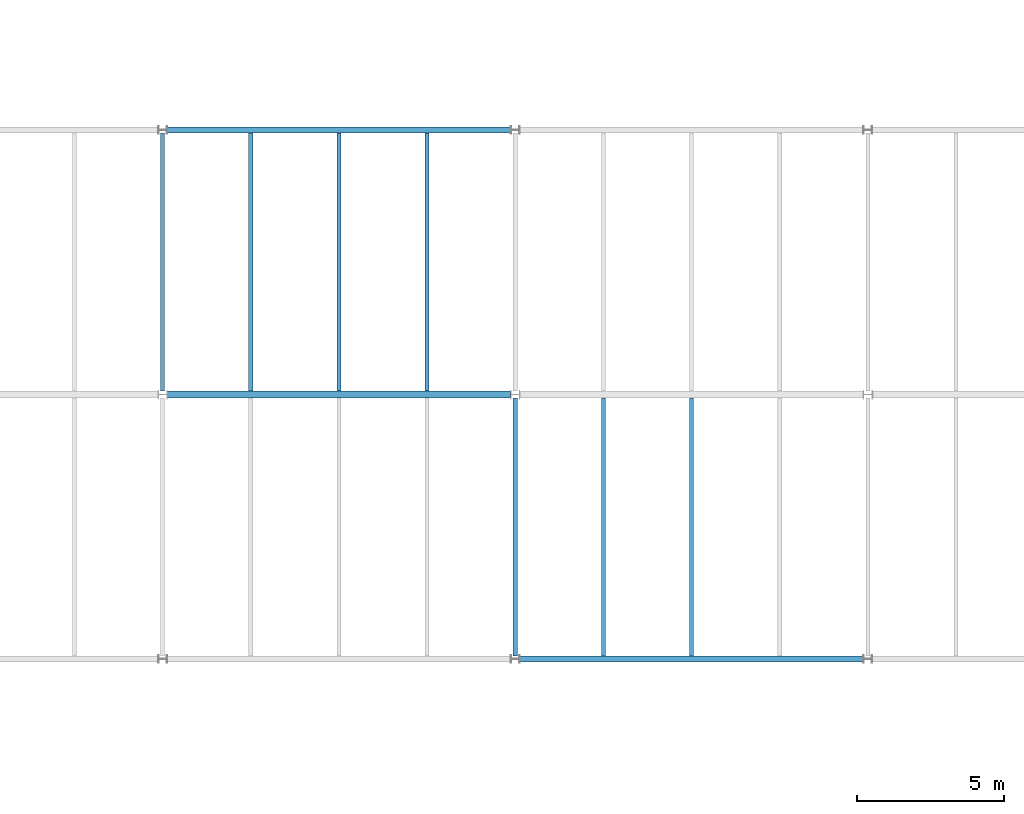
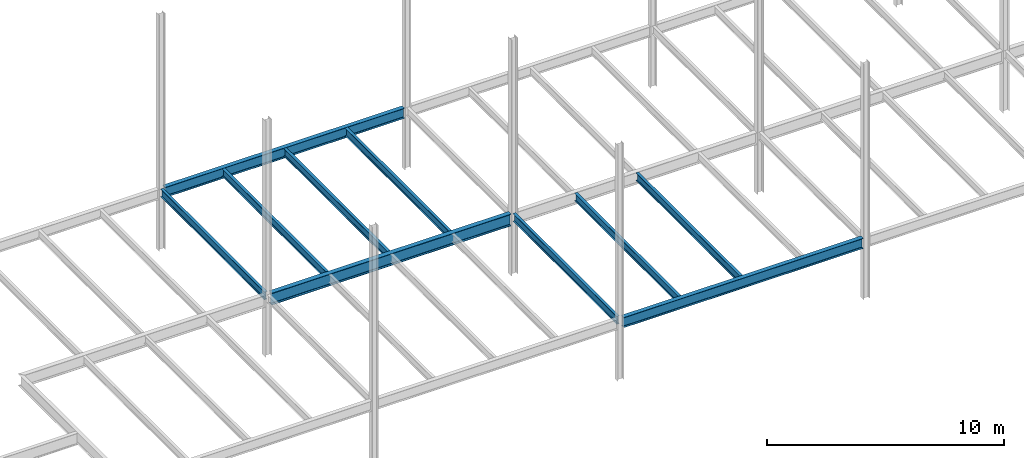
# One storey, part 18 of 26: 10 beams.
"""IFC2X3 building model written with IfcOpenShell, lengths in millimetres."""

from ifc_helpers import new_model, si_unit, origin, place, context, project, spatial, faceted_brep, material, element, save


model = new_model("IFC2X3")

# Units and contexts
context_of_model = context(None, 3, precision=1e-05, world=origin())
ifc_project = project(units=[si_unit("LENGTHUNIT", "METRE", prefix="MILLI")], contexts=[context_of_model])

# Building, storey
building = spatial("IfcBuilding", under=ifc_project, Name="Building", CompositionType="ELEMENT")
storey = spatial("IfcBuildingStorey", under=building, Name="FL4-FRM", CompositionType="ELEMENT")

# Beams
ifc_material_1 = material(Name="A992")
beam_1_placement = place(None, origin())
element("IfcBeam", 1, at=beam_1_placement, inside=storey, material=ifc_material_1, Name="Column383", context=context_of_model, shape_type="Brep", body=[
    faceted_brep([(24157.0, 17885.5, 12761.0), (24157.0, 18114.5, 12761.0), (35843.0, 18114.5, 12761.0), (35843.0, 17885.5, 12761.0), (24157.0, 18114.5, 12780.6), (35843.0, 18114.5, 12780.6), (24157.0, 18018.6, 12780.6), (35843.0, 18018.6, 12780.6), (24157.0, 18015.4, 12781.0), (35843.0, 18015.4, 12781.0), (24157.0, 18012.3, 12782.3), (35843.0, 18012.3, 12782.3), (24157.0, 18009.7, 12784.3), (35843.0, 18009.7, 12784.3), (24157.0, 18007.7, 12787.0), (35843.0, 18007.7, 12787.0), (24157.0, 18006.4, 12790.0), (35843.0, 18006.4, 12790.0), (24157.0, 18005.9, 12793.3), (35843.0, 18005.9, 12793.3), (24157.0, 18005.9, 13340.7), (35843.0, 18005.9, 13340.7), (24157.0, 18006.4, 13344.0), (35843.0, 18006.4, 13344.0), (24157.0, 18007.7, 13347.0), (35843.0, 18007.7, 13347.0), (24157.0, 18009.7, 13349.7), (35843.0, 18009.7, 13349.7), (24157.0, 18012.3, 13351.7), (35843.0, 18012.3, 13351.7), (24157.0, 18015.4, 13353.0), (35843.0, 18015.4, 13353.0), (24157.0, 18018.6, 13353.4), (35843.0, 18018.6, 13353.4), (24157.0, 18114.5, 13353.4), (35843.0, 18114.5, 13353.4), (24157.0, 18114.5, 13373.0), (35843.0, 18114.5, 13373.0), (24157.0, 17885.5, 13373.0), (35843.0, 17885.5, 13373.0), (24157.0, 17885.5, 13353.4), (35843.0, 17885.5, 13353.4), (24157.0, 17981.4, 13353.4), (35843.0, 17981.4, 13353.4), (24157.0, 17984.6, 13353.0), (35843.0, 17984.6, 13353.0), (24157.0, 17987.7, 13351.7), (35843.0, 17987.7, 13351.7), (24157.0, 17990.3, 13349.7), (35843.0, 17990.3, 13349.7), (24157.0, 17992.3, 13347.0), (35843.0, 17992.3, 13347.0), (24157.0, 17993.6, 13344.0), (35843.0, 17993.6, 13344.0), (24157.0, 17994.1, 13340.7), (35843.0, 17994.1, 13340.7), (24157.0, 17994.1, 12793.3), (35843.0, 17994.1, 12793.3), (24157.0, 17993.6, 12790.0), (35843.0, 17993.6, 12790.0), (24157.0, 17992.3, 12787.0), (35843.0, 17992.3, 12787.0), (24157.0, 17990.3, 12784.3), (35843.0, 17990.3, 12784.3), (24157.0, 17987.7, 12782.3), (35843.0, 17987.7, 12782.3), (24157.0, 17984.6, 12781.0), (35843.0, 17984.6, 12781.0), (24157.0, 17981.4, 12780.6), (35843.0, 17981.4, 12780.6), (24157.0, 17885.5, 12780.6), (35843.0, 17885.5, 12780.6)], [[[0, 1, 2, 3]], [[1, 4, 5, 2]], [[4, 6, 7, 5]], [[6, 8, 9, 7]], [[8, 10, 11, 9]], [[10, 12, 13, 11]], [[12, 14, 15, 13]], [[14, 16, 17, 15]], [[16, 18, 19, 17]], [[18, 20, 21, 19]], [[20, 22, 23, 21]], [[22, 24, 25, 23]], [[24, 26, 27, 25]], [[26, 28, 29, 27]], [[28, 30, 31, 29]], [[30, 32, 33, 31]], [[32, 34, 35, 33]], [[34, 36, 37, 35]], [[36, 38, 39, 37]], [[38, 40, 41, 39]], [[40, 42, 43, 41]], [[42, 44, 45, 43]], [[44, 46, 47, 45]], [[46, 48, 49, 47]], [[48, 50, 51, 49]], [[50, 52, 53, 51]], [[52, 54, 55, 53]], [[54, 56, 57, 55]], [[56, 58, 59, 57]], [[58, 60, 61, 59]], [[60, 62, 63, 61]], [[62, 64, 65, 63]], [[64, 66, 67, 65]], [[66, 68, 69, 67]], [[68, 70, 71, 69]], [[70, 0, 3, 71]], [[0, 70, 68, 66, 64, 62, 60, 58, 56, 54, 52, 50, 48, 46, 44, 42, 40, 38, 36, 34, 32, 30, 28, 26, 24, 22, 20, 18, 16, 14, 12, 10, 8, 6, 4, 1]], [[3, 2, 5, 7, 9, 11, 13, 15, 17, 19, 21, 23, 25, 27, 29, 31, 33, 35, 37, 39, 41, 43, 45, 47, 49, 51, 53, 55, 57, 59, 61, 63, 65, 67, 69, 71]]]),
])
ifc_material_2 = material(Name="A992")
beam_2_placement = place(None, origin())
element("IfcBeam", 2, at=beam_2_placement, inside=storey, material=ifc_material_2, Name="B198", context=context_of_model, shape_type="Brep", body=[
    faceted_brep([(26930.0, 26895.5, 12974.0), (27070.0, 26895.5, 12974.0), (27070.0, 18114.5, 12974.0), (26930.0, 18114.5, 12974.0), (27070.0, 26895.5, 12982.8), (27070.0, 18114.5, 12982.8), (27013.4, 26895.5, 12982.8), (27013.4, 18114.5, 12982.8), (27010.8, 26895.5, 12983.1), (27010.8, 18114.5, 12983.1), (27008.3, 26895.5, 12984.2), (27008.3, 18114.5, 12984.2), (27006.2, 26895.5, 12985.8), (27006.2, 18114.5, 12985.8), (27004.6, 26895.5, 12987.9), (27004.6, 18114.5, 12987.9), (27003.5, 26895.5, 12990.4), (27003.5, 18114.5, 12990.4), (27003.2, 26895.5, 12993.0), (27003.2, 18114.5, 12993.0), (27003.2, 26895.5, 13354.0), (27003.2, 18114.5, 13354.0), (27003.5, 26895.5, 13356.6), (27003.5, 18114.5, 13356.6), (27004.6, 26895.5, 13359.1), (27004.6, 18114.5, 13359.1), (27006.2, 26895.5, 13361.2), (27006.2, 18114.5, 13361.2), (27008.3, 26895.5, 13362.8), (27008.3, 18114.5, 13362.8), (27010.8, 26895.5, 13363.9), (27010.8, 18114.5, 13363.9), (27013.4, 26895.5, 13364.2), (27013.4, 18114.5, 13364.2), (27070.0, 26895.5, 13364.2), (27070.0, 18114.5, 13364.2), (27070.0, 26895.5, 13373.0), (27070.0, 18114.5, 13373.0), (26930.0, 26895.5, 13373.0), (26930.0, 18114.5, 13373.0), (26930.0, 26895.5, 13364.2), (26930.0, 18114.5, 13364.2), (26986.6, 26895.5, 13364.2), (26986.6, 18114.5, 13364.2), (26989.2, 26895.5, 13363.9), (26989.2, 18114.5, 13363.9), (26991.7, 26895.5, 13362.8), (26991.7, 18114.5, 13362.8), (26993.8, 26895.5, 13361.2), (26993.8, 18114.5, 13361.2), (26995.4, 26895.5, 13359.1), (26995.4, 18114.5, 13359.1), (26996.5, 26895.5, 13356.6), (26996.5, 18114.5, 13356.6), (26996.8, 26895.5, 13354.0), (26996.8, 18114.5, 13354.0), (26996.8, 26895.5, 12993.0), (26996.8, 18114.5, 12993.0), (26996.5, 26895.5, 12990.4), (26996.5, 18114.5, 12990.4), (26995.4, 26895.5, 12987.9), (26995.4, 18114.5, 12987.9), (26993.8, 26895.5, 12985.8), (26993.8, 18114.5, 12985.8), (26991.7, 26895.5, 12984.2), (26991.7, 18114.5, 12984.2), (26989.2, 26895.5, 12983.1), (26989.2, 18114.5, 12983.1), (26986.6, 26895.5, 12982.8), (26986.6, 18114.5, 12982.8), (26930.0, 26895.5, 12982.8), (26930.0, 18114.5, 12982.8)], [[[0, 1, 2, 3]], [[1, 4, 5, 2]], [[4, 6, 7, 5]], [[6, 8, 9, 7]], [[8, 10, 11, 9]], [[10, 12, 13, 11]], [[12, 14, 15, 13]], [[14, 16, 17, 15]], [[16, 18, 19, 17]], [[18, 20, 21, 19]], [[20, 22, 23, 21]], [[22, 24, 25, 23]], [[24, 26, 27, 25]], [[26, 28, 29, 27]], [[28, 30, 31, 29]], [[30, 32, 33, 31]], [[32, 34, 35, 33]], [[34, 36, 37, 35]], [[36, 38, 39, 37]], [[38, 40, 41, 39]], [[40, 42, 43, 41]], [[42, 44, 45, 43]], [[44, 46, 47, 45]], [[46, 48, 49, 47]], [[48, 50, 51, 49]], [[50, 52, 53, 51]], [[52, 54, 55, 53]], [[54, 56, 57, 55]], [[56, 58, 59, 57]], [[58, 60, 61, 59]], [[60, 62, 63, 61]], [[62, 64, 65, 63]], [[64, 66, 67, 65]], [[66, 68, 69, 67]], [[68, 70, 71, 69]], [[70, 0, 3, 71]], [[0, 70, 68, 66, 64, 62, 60, 58, 56, 54, 52, 50, 48, 46, 44, 42, 40, 38, 36, 34, 32, 30, 28, 26, 24, 22, 20, 18, 16, 14, 12, 10, 8, 6, 4, 1]], [[3, 2, 5, 7, 9, 11, 13, 15, 17, 19, 21, 23, 25, 27, 29, 31, 33, 35, 37, 39, 41, 43, 45, 47, 49, 51, 53, 55, 57, 59, 61, 63, 65, 67, 69, 71]]]),
])
ifc_material_3 = material(Name="A992")
beam_3_placement = place(None, origin())
element("IfcBeam", 3, at=beam_3_placement, inside=storey, material=ifc_material_3, Name="B201", context=context_of_model, shape_type="Brep", body=[
    faceted_brep([(29930.0, 26895.5, 12974.0), (30070.0, 26895.5, 12974.0), (30070.0, 18114.5, 12974.0), (29930.0, 18114.5, 12974.0), (30070.0, 26895.5, 12982.8), (30070.0, 18114.5, 12982.8), (30013.4, 26895.5, 12982.8), (30013.4, 18114.5, 12982.8), (30010.8, 26895.5, 12983.1), (30010.8, 18114.5, 12983.1), (30008.3, 26895.5, 12984.2), (30008.3, 18114.5, 12984.2), (30006.2, 26895.5, 12985.8), (30006.2, 18114.5, 12985.8), (30004.6, 26895.5, 12987.9), (30004.6, 18114.5, 12987.9), (30003.5, 26895.5, 12990.4), (30003.5, 18114.5, 12990.4), (30003.2, 26895.5, 12993.0), (30003.2, 18114.5, 12993.0), (30003.2, 26895.5, 13354.0), (30003.2, 18114.5, 13354.0), (30003.5, 26895.5, 13356.6), (30003.5, 18114.5, 13356.6), (30004.6, 26895.5, 13359.1), (30004.6, 18114.5, 13359.1), (30006.2, 26895.5, 13361.2), (30006.2, 18114.5, 13361.2), (30008.3, 26895.5, 13362.8), (30008.3, 18114.5, 13362.8), (30010.8, 26895.5, 13363.9), (30010.8, 18114.5, 13363.9), (30013.4, 26895.5, 13364.2), (30013.4, 18114.5, 13364.2), (30070.0, 26895.5, 13364.2), (30070.0, 18114.5, 13364.2), (30070.0, 26895.5, 13373.0), (30070.0, 18114.5, 13373.0), (29930.0, 26895.5, 13373.0), (29930.0, 18114.5, 13373.0), (29930.0, 26895.5, 13364.2), (29930.0, 18114.5, 13364.2), (29986.6, 26895.5, 13364.2), (29986.6, 18114.5, 13364.2), (29989.2, 26895.5, 13363.9), (29989.2, 18114.5, 13363.9), (29991.7, 26895.5, 13362.8), (29991.7, 18114.5, 13362.8), (29993.8, 26895.5, 13361.2), (29993.8, 18114.5, 13361.2), (29995.4, 26895.5, 13359.1), (29995.4, 18114.5, 13359.1), (29996.5, 26895.5, 13356.6), (29996.5, 18114.5, 13356.6), (29996.8, 26895.5, 13354.0), (29996.8, 18114.5, 13354.0), (29996.8, 26895.5, 12993.0), (29996.8, 18114.5, 12993.0), (29996.5, 26895.5, 12990.4), (29996.5, 18114.5, 12990.4), (29995.4, 26895.5, 12987.9), (29995.4, 18114.5, 12987.9), (29993.8, 26895.5, 12985.8), (29993.8, 18114.5, 12985.8), (29991.7, 26895.5, 12984.2), (29991.7, 18114.5, 12984.2), (29989.2, 26895.5, 12983.1), (29989.2, 18114.5, 12983.1), (29986.6, 26895.5, 12982.8), (29986.6, 18114.5, 12982.8), (29930.0, 26895.5, 12982.8), (29930.0, 18114.5, 12982.8)], [[[0, 1, 2, 3]], [[1, 4, 5, 2]], [[4, 6, 7, 5]], [[6, 8, 9, 7]], [[8, 10, 11, 9]], [[10, 12, 13, 11]], [[12, 14, 15, 13]], [[14, 16, 17, 15]], [[16, 18, 19, 17]], [[18, 20, 21, 19]], [[20, 22, 23, 21]], [[22, 24, 25, 23]], [[24, 26, 27, 25]], [[26, 28, 29, 27]], [[28, 30, 31, 29]], [[30, 32, 33, 31]], [[32, 34, 35, 33]], [[34, 36, 37, 35]], [[36, 38, 39, 37]], [[38, 40, 41, 39]], [[40, 42, 43, 41]], [[42, 44, 45, 43]], [[44, 46, 47, 45]], [[46, 48, 49, 47]], [[48, 50, 51, 49]], [[50, 52, 53, 51]], [[52, 54, 55, 53]], [[54, 56, 57, 55]], [[56, 58, 59, 57]], [[58, 60, 61, 59]], [[60, 62, 63, 61]], [[62, 64, 65, 63]], [[64, 66, 67, 65]], [[66, 68, 69, 67]], [[68, 70, 71, 69]], [[70, 0, 3, 71]], [[0, 70, 68, 66, 64, 62, 60, 58, 56, 54, 52, 50, 48, 46, 44, 42, 40, 38, 36, 34, 32, 30, 28, 26, 24, 22, 20, 18, 16, 14, 12, 10, 8, 6, 4, 1]], [[3, 2, 5, 7, 9, 11, 13, 15, 17, 19, 21, 23, 25, 27, 29, 31, 33, 35, 37, 39, 41, 43, 45, 47, 49, 51, 53, 55, 57, 59, 61, 63, 65, 67, 69, 71]]]),
])
ifc_material_4 = material(Name="A992")
beam_4_placement = place(None, origin())
element("IfcBeam", 4, at=beam_4_placement, inside=storey, material=ifc_material_4, Name="B202", context=context_of_model, shape_type="Brep", body=[
    faceted_brep([(32930.0, 26895.5, 12974.0), (33070.0, 26895.5, 12974.0), (33070.0, 18114.5, 12974.0), (32930.0, 18114.5, 12974.0), (33070.0, 26895.5, 12982.8), (33070.0, 18114.5, 12982.8), (33013.4, 26895.5, 12982.8), (33013.4, 18114.5, 12982.8), (33010.8, 26895.5, 12983.1), (33010.8, 18114.5, 12983.1), (33008.3, 26895.5, 12984.2), (33008.3, 18114.5, 12984.2), (33006.2, 26895.5, 12985.8), (33006.2, 18114.5, 12985.8), (33004.6, 26895.5, 12987.9), (33004.6, 18114.5, 12987.9), (33003.5, 26895.5, 12990.4), (33003.5, 18114.5, 12990.4), (33003.2, 26895.5, 12993.0), (33003.2, 18114.5, 12993.0), (33003.2, 26895.5, 13354.0), (33003.2, 18114.5, 13354.0), (33003.5, 26895.5, 13356.6), (33003.5, 18114.5, 13356.6), (33004.6, 26895.5, 13359.1), (33004.6, 18114.5, 13359.1), (33006.2, 26895.5, 13361.2), (33006.2, 18114.5, 13361.2), (33008.3, 26895.5, 13362.8), (33008.3, 18114.5, 13362.8), (33010.8, 26895.5, 13363.9), (33010.8, 18114.5, 13363.9), (33013.4, 26895.5, 13364.2), (33013.4, 18114.5, 13364.2), (33070.0, 26895.5, 13364.2), (33070.0, 18114.5, 13364.2), (33070.0, 26895.5, 13373.0), (33070.0, 18114.5, 13373.0), (32930.0, 26895.5, 13373.0), (32930.0, 18114.5, 13373.0), (32930.0, 26895.5, 13364.2), (32930.0, 18114.5, 13364.2), (32986.6, 26895.5, 13364.2), (32986.6, 18114.5, 13364.2), (32989.2, 26895.5, 13363.9), (32989.2, 18114.5, 13363.9), (32991.7, 26895.5, 13362.8), (32991.7, 18114.5, 13362.8), (32993.8, 26895.5, 13361.2), (32993.8, 18114.5, 13361.2), (32995.4, 26895.5, 13359.1), (32995.4, 18114.5, 13359.1), (32996.5, 26895.5, 13356.6), (32996.5, 18114.5, 13356.6), (32996.8, 26895.5, 13354.0), (32996.8, 18114.5, 13354.0), (32996.8, 26895.5, 12993.0), (32996.8, 18114.5, 12993.0), (32996.5, 26895.5, 12990.4), (32996.5, 18114.5, 12990.4), (32995.4, 26895.5, 12987.9), (32995.4, 18114.5, 12987.9), (32993.8, 26895.5, 12985.8), (32993.8, 18114.5, 12985.8), (32991.7, 26895.5, 12984.2), (32991.7, 18114.5, 12984.2), (32989.2, 26895.5, 12983.1), (32989.2, 18114.5, 12983.1), (32986.6, 26895.5, 12982.8), (32986.6, 18114.5, 12982.8), (32930.0, 26895.5, 12982.8), (32930.0, 18114.5, 12982.8)], [[[0, 1, 2, 3]], [[1, 4, 5, 2]], [[4, 6, 7, 5]], [[6, 8, 9, 7]], [[8, 10, 11, 9]], [[10, 12, 13, 11]], [[12, 14, 15, 13]], [[14, 16, 17, 15]], [[16, 18, 19, 17]], [[18, 20, 21, 19]], [[20, 22, 23, 21]], [[22, 24, 25, 23]], [[24, 26, 27, 25]], [[26, 28, 29, 27]], [[28, 30, 31, 29]], [[30, 32, 33, 31]], [[32, 34, 35, 33]], [[34, 36, 37, 35]], [[36, 38, 39, 37]], [[38, 40, 41, 39]], [[40, 42, 43, 41]], [[42, 44, 45, 43]], [[44, 46, 47, 45]], [[46, 48, 49, 47]], [[48, 50, 51, 49]], [[50, 52, 53, 51]], [[52, 54, 55, 53]], [[54, 56, 57, 55]], [[56, 58, 59, 57]], [[58, 60, 61, 59]], [[60, 62, 63, 61]], [[62, 64, 65, 63]], [[64, 66, 67, 65]], [[66, 68, 69, 67]], [[68, 70, 71, 69]], [[70, 0, 3, 71]], [[0, 70, 68, 66, 64, 62, 60, 58, 56, 54, 52, 50, 48, 46, 44, 42, 40, 38, 36, 34, 32, 30, 28, 26, 24, 22, 20, 18, 16, 14, 12, 10, 8, 6, 4, 1]], [[3, 2, 5, 7, 9, 11, 13, 15, 17, 19, 21, 23, 25, 27, 29, 31, 33, 35, 37, 39, 41, 43, 45, 47, 49, 51, 53, 55, 57, 59, 61, 63, 65, 67, 69, 71]]]),
])
ifc_material_5 = material(Name="A992")
beam_5_placement = place(None, origin())
element("IfcBeam", 5, at=beam_5_placement, inside=storey, material=ifc_material_5, Name="Column384", context=context_of_model, shape_type="Brep", body=[
    faceted_brep([(24153.0, 26895.5, 12845.0), (24153.0, 27104.5, 12845.0), (35847.0, 27104.5, 12845.0), (35847.0, 26895.5, 12845.0), (24153.0, 27104.5, 12858.3), (35847.0, 27104.5, 12858.3), (24153.0, 27017.4, 12858.3), (35847.0, 27017.4, 12858.3), (24153.0, 27014.2, 12858.7), (35847.0, 27014.2, 12858.7), (24153.0, 27011.1, 12860.0), (35847.0, 27011.1, 12860.0), (24153.0, 27008.5, 12862.0), (35847.0, 27008.5, 12862.0), (24153.0, 27006.5, 12864.7), (35847.0, 27006.5, 12864.7), (24153.0, 27005.2, 12867.7), (35847.0, 27005.2, 12867.7), (24153.0, 27004.8, 12871.0), (35847.0, 27004.8, 12871.0), (24153.0, 27004.8, 13347.0), (35847.0, 27004.8, 13347.0), (24153.0, 27005.2, 13350.3), (35847.0, 27005.2, 13350.3), (24153.0, 27006.5, 13353.3), (35847.0, 27006.5, 13353.3), (24153.0, 27008.5, 13356.0), (35847.0, 27008.5, 13356.0), (24153.0, 27011.1, 13358.0), (35847.0, 27011.1, 13358.0), (24153.0, 27014.2, 13359.3), (35847.0, 27014.2, 13359.3), (24153.0, 27017.4, 13359.7), (35847.0, 27017.4, 13359.7), (24153.0, 27104.5, 13359.7), (35847.0, 27104.5, 13359.7), (24153.0, 27104.5, 13373.0), (35847.0, 27104.5, 13373.0), (24153.0, 26895.5, 13373.0), (35847.0, 26895.5, 13373.0), (24153.0, 26895.5, 13359.7), (35847.0, 26895.5, 13359.7), (24153.0, 26982.6, 13359.7), (35847.0, 26982.6, 13359.7), (24153.0, 26985.8, 13359.3), (35847.0, 26985.8, 13359.3), (24153.0, 26988.9, 13358.0), (35847.0, 26988.9, 13358.0), (24153.0, 26991.5, 13356.0), (35847.0, 26991.5, 13356.0), (24153.0, 26993.5, 13353.3), (35847.0, 26993.5, 13353.3), (24153.0, 26994.8, 13350.3), (35847.0, 26994.8, 13350.3), (24153.0, 26995.3, 13347.0), (35847.0, 26995.3, 13347.0), (24153.0, 26995.2, 12871.0), (35847.0, 26995.3, 12871.0), (24153.0, 26994.8, 12867.7), (35847.0, 26994.8, 12867.7), (24153.0, 26993.5, 12864.7), (35847.0, 26993.5, 12864.7), (24153.0, 26991.5, 12862.0), (35847.0, 26991.5, 12862.0), (24153.0, 26988.9, 12860.0), (35847.0, 26988.9, 12860.0), (24153.0, 26985.8, 12858.7), (35847.0, 26985.8, 12858.7), (24153.0, 26982.6, 12858.3), (35847.0, 26982.6, 12858.3), (24153.0, 26895.5, 12858.3), (35847.0, 26895.5, 12858.3)], [[[0, 1, 2, 3]], [[1, 4, 5, 2]], [[4, 6, 7, 5]], [[6, 8, 9, 7]], [[8, 10, 11, 9]], [[10, 12, 13, 11]], [[12, 14, 15, 13]], [[14, 16, 17, 15]], [[16, 18, 19, 17]], [[18, 20, 21, 19]], [[20, 22, 23, 21]], [[22, 24, 25, 23]], [[24, 26, 27, 25]], [[26, 28, 29, 27]], [[28, 30, 31, 29]], [[30, 32, 33, 31]], [[32, 34, 35, 33]], [[34, 36, 37, 35]], [[36, 38, 39, 37]], [[38, 40, 41, 39]], [[40, 42, 43, 41]], [[42, 44, 45, 43]], [[44, 46, 47, 45]], [[46, 48, 49, 47]], [[48, 50, 51, 49]], [[50, 52, 53, 51]], [[52, 54, 55, 53]], [[54, 56, 57, 55]], [[56, 58, 59, 57]], [[58, 60, 61, 59]], [[60, 62, 63, 61]], [[62, 64, 65, 63]], [[64, 66, 67, 65]], [[66, 68, 69, 67]], [[68, 70, 71, 69]], [[70, 0, 3, 71]], [[0, 70, 68, 66, 64, 62, 60, 58, 56, 54, 52, 50, 48, 46, 44, 42, 40, 38, 36, 34, 32, 30, 28, 26, 24, 22, 20, 18, 16, 14, 12, 10, 8, 6, 4, 1]], [[3, 2, 5, 7, 9, 11, 13, 15, 17, 19, 21, 23, 25, 27, 29, 31, 33, 35, 37, 39, 41, 43, 45, 47, 49, 51, 53, 55, 57, 59, 61, 63, 65, 67, 69, 71]]]),
])
ifc_material_6 = material(Name="A992")
beam_6_placement = place(None, origin())
element("IfcBeam", 6, at=beam_6_placement, inside=storey, material=ifc_material_6, Name="B205", context=context_of_model, shape_type="Brep", body=[
    faceted_brep([(24070.0, 18114.5, 12974.0), (23930.0, 18114.5, 12974.0), (23930.0, 26895.5, 12974.0), (24070.0, 26895.5, 12974.0), (23930.0, 18114.5, 12982.8), (23930.0, 26895.5, 12982.8), (23986.6, 18114.5, 12982.8), (23986.6, 26895.5, 12982.8), (23989.2, 18114.5, 12983.1), (23989.2, 26895.5, 12983.1), (23991.7, 18114.5, 12984.2), (23991.7, 26895.5, 12984.2), (23993.8, 18114.5, 12985.8), (23993.8, 26895.5, 12985.8), (23995.4, 18114.5, 12987.9), (23995.4, 26895.5, 12987.9), (23996.5, 18114.5, 12990.4), (23996.5, 26895.5, 12990.4), (23996.8, 18114.5, 12993.0), (23996.8, 26895.5, 12993.0), (23996.8, 18114.5, 13354.0), (23996.8, 26895.5, 13354.0), (23996.5, 18114.5, 13356.6), (23996.5, 26895.5, 13356.6), (23995.4, 18114.5, 13359.1), (23995.4, 26895.5, 13359.1), (23993.8, 18114.5, 13361.2), (23993.8, 26895.5, 13361.2), (23991.7, 18114.5, 13362.8), (23991.7, 26895.5, 13362.8), (23989.2, 18114.5, 13363.9), (23989.2, 26895.5, 13363.9), (23986.6, 18114.5, 13364.2), (23986.6, 26895.5, 13364.2), (23930.0, 18114.5, 13364.2), (23930.0, 26895.5, 13364.2), (23930.0, 18114.5, 13373.0), (23930.0, 26895.5, 13373.0), (24070.0, 18114.5, 13373.0), (24070.0, 26895.5, 13373.0), (24070.0, 18114.5, 13364.2), (24070.0, 26895.5, 13364.2), (24013.4, 18114.5, 13364.2), (24013.4, 26895.5, 13364.2), (24010.8, 18114.5, 13363.9), (24010.8, 26895.5, 13363.9), (24008.3, 18114.5, 13362.8), (24008.3, 26895.5, 13362.8), (24006.2, 18114.5, 13361.2), (24006.2, 26895.5, 13361.2), (24004.6, 18114.5, 13359.1), (24004.6, 26895.5, 13359.1), (24003.5, 18114.5, 13356.6), (24003.5, 26895.5, 13356.6), (24003.2, 18114.5, 13354.0), (24003.2, 26895.5, 13354.0), (24003.2, 18114.5, 12993.0), (24003.2, 26895.5, 12993.0), (24003.5, 18114.5, 12990.4), (24003.5, 26895.5, 12990.4), (24004.6, 18114.5, 12987.9), (24004.6, 26895.5, 12987.9), (24006.2, 18114.5, 12985.8), (24006.2, 26895.5, 12985.8), (24008.3, 18114.5, 12984.2), (24008.3, 26895.5, 12984.2), (24010.8, 18114.5, 12983.1), (24010.8, 26895.5, 12983.1), (24013.4, 18114.5, 12982.8), (24013.4, 26895.5, 12982.8), (24070.0, 18114.5, 12982.8), (24070.0, 26895.5, 12982.8)], [[[0, 1, 2, 3]], [[1, 4, 5, 2]], [[4, 6, 7, 5]], [[6, 8, 9, 7]], [[8, 10, 11, 9]], [[10, 12, 13, 11]], [[12, 14, 15, 13]], [[14, 16, 17, 15]], [[16, 18, 19, 17]], [[18, 20, 21, 19]], [[20, 22, 23, 21]], [[22, 24, 25, 23]], [[24, 26, 27, 25]], [[26, 28, 29, 27]], [[28, 30, 31, 29]], [[30, 32, 33, 31]], [[32, 34, 35, 33]], [[34, 36, 37, 35]], [[36, 38, 39, 37]], [[38, 40, 41, 39]], [[40, 42, 43, 41]], [[42, 44, 45, 43]], [[44, 46, 47, 45]], [[46, 48, 49, 47]], [[48, 50, 51, 49]], [[50, 52, 53, 51]], [[52, 54, 55, 53]], [[54, 56, 57, 55]], [[56, 58, 59, 57]], [[58, 60, 61, 59]], [[60, 62, 63, 61]], [[62, 64, 65, 63]], [[64, 66, 67, 65]], [[66, 68, 69, 67]], [[68, 70, 71, 69]], [[70, 0, 3, 71]], [[0, 70, 68, 66, 64, 62, 60, 58, 56, 54, 52, 50, 48, 46, 44, 42, 40, 38, 36, 34, 32, 30, 28, 26, 24, 22, 20, 18, 16, 14, 12, 10, 8, 6, 4, 1]], [[3, 2, 5, 7, 9, 11, 13, 15, 17, 19, 21, 23, 25, 27, 29, 31, 33, 35, 37, 39, 41, 43, 45, 47, 49, 51, 53, 55, 57, 59, 61, 63, 65, 67, 69, 71]]]),
])
ifc_material_7 = material(Name="A992")
beam_7_placement = place(None, origin())
element("IfcBeam", 7, at=beam_7_placement, inside=storey, material=ifc_material_7, Name="B218", context=context_of_model, shape_type="Brep", body=[
    faceted_brep([(39070.0, 9104.5, 12974.0), (38930.0, 9104.5, 12974.0), (38930.0, 17885.5, 12974.0), (39070.0, 17885.5, 12974.0), (38930.0, 9104.5, 12982.8), (38930.0, 17885.5, 12982.8), (38986.6, 9104.5, 12982.8), (38986.6, 17885.5, 12982.8), (38989.2, 9104.5, 12983.1), (38989.2, 17885.5, 12983.1), (38991.7, 9104.5, 12984.2), (38991.7, 17885.5, 12984.2), (38993.8, 9104.5, 12985.8), (38993.8, 17885.5, 12985.8), (38995.4, 9104.5, 12987.9), (38995.4, 17885.5, 12987.9), (38996.5, 9104.5, 12990.4), (38996.5, 17885.5, 12990.4), (38996.8, 9104.5, 12993.0), (38996.8, 17885.5, 12993.0), (38996.8, 9104.5, 13354.0), (38996.8, 17885.5, 13354.0), (38996.5, 9104.5, 13356.6), (38996.5, 17885.5, 13356.6), (38995.4, 9104.5, 13359.1), (38995.4, 17885.5, 13359.1), (38993.8, 9104.5, 13361.2), (38993.8, 17885.5, 13361.2), (38991.7, 9104.5, 13362.8), (38991.7, 17885.5, 13362.8), (38989.2, 9104.5, 13363.9), (38989.2, 17885.5, 13363.9), (38986.6, 9104.5, 13364.2), (38986.6, 17885.5, 13364.2), (38930.0, 9104.5, 13364.2), (38930.0, 17885.5, 13364.2), (38930.0, 9104.5, 13373.0), (38930.0, 17885.5, 13373.0), (39070.0, 9104.5, 13373.0), (39070.0, 17885.5, 13373.0), (39070.0, 9104.5, 13364.2), (39070.0, 17885.5, 13364.2), (39013.4, 9104.5, 13364.2), (39013.4, 17885.5, 13364.2), (39010.8, 9104.5, 13363.9), (39010.8, 17885.5, 13363.9), (39008.3, 9104.5, 13362.8), (39008.3, 17885.5, 13362.8), (39006.2, 9104.5, 13361.2), (39006.2, 17885.5, 13361.2), (39004.6, 9104.5, 13359.1), (39004.6, 17885.5, 13359.1), (39003.5, 9104.5, 13356.6), (39003.5, 17885.5, 13356.6), (39003.2, 9104.5, 13354.0), (39003.2, 17885.5, 13354.0), (39003.2, 9104.5, 12993.0), (39003.2, 17885.5, 12993.0), (39003.5, 9104.5, 12990.4), (39003.5, 17885.5, 12990.4), (39004.6, 9104.5, 12987.9), (39004.6, 17885.5, 12987.9), (39006.2, 9104.5, 12985.8), (39006.2, 17885.5, 12985.8), (39008.3, 9104.5, 12984.2), (39008.3, 17885.5, 12984.2), (39010.8, 9104.5, 12983.1), (39010.8, 17885.5, 12983.1), (39013.4, 9104.5, 12982.8), (39013.4, 17885.5, 12982.8), (39070.0, 9104.5, 12982.8), (39070.0, 17885.5, 12982.8)], [[[0, 1, 2, 3]], [[1, 4, 5, 2]], [[4, 6, 7, 5]], [[6, 8, 9, 7]], [[8, 10, 11, 9]], [[10, 12, 13, 11]], [[12, 14, 15, 13]], [[14, 16, 17, 15]], [[16, 18, 19, 17]], [[18, 20, 21, 19]], [[20, 22, 23, 21]], [[22, 24, 25, 23]], [[24, 26, 27, 25]], [[26, 28, 29, 27]], [[28, 30, 31, 29]], [[30, 32, 33, 31]], [[32, 34, 35, 33]], [[34, 36, 37, 35]], [[36, 38, 39, 37]], [[38, 40, 41, 39]], [[40, 42, 43, 41]], [[42, 44, 45, 43]], [[44, 46, 47, 45]], [[46, 48, 49, 47]], [[48, 50, 51, 49]], [[50, 52, 53, 51]], [[52, 54, 55, 53]], [[54, 56, 57, 55]], [[56, 58, 59, 57]], [[58, 60, 61, 59]], [[60, 62, 63, 61]], [[62, 64, 65, 63]], [[64, 66, 67, 65]], [[66, 68, 69, 67]], [[68, 70, 71, 69]], [[70, 0, 3, 71]], [[0, 70, 68, 66, 64, 62, 60, 58, 56, 54, 52, 50, 48, 46, 44, 42, 40, 38, 36, 34, 32, 30, 28, 26, 24, 22, 20, 18, 16, 14, 12, 10, 8, 6, 4, 1]], [[3, 2, 5, 7, 9, 11, 13, 15, 17, 19, 21, 23, 25, 27, 29, 31, 33, 35, 37, 39, 41, 43, 45, 47, 49, 51, 53, 55, 57, 59, 61, 63, 65, 67, 69, 71]]]),
])
ifc_material_8 = material(Name="A992")
beam_8_placement = place(None, origin())
element("IfcBeam", 8, at=beam_8_placement, inside=storey, material=ifc_material_8, Name="B219", context=context_of_model, shape_type="Brep", body=[
    faceted_brep([(42070.0, 9104.5, 12974.0), (41930.0, 9104.5, 12974.0), (41930.0, 17885.5, 12974.0), (42070.0, 17885.5, 12974.0), (41930.0, 9104.5, 12982.8), (41930.0, 17885.5, 12982.8), (41986.6, 9104.5, 12982.8), (41986.6, 17885.5, 12982.8), (41989.2, 9104.5, 12983.1), (41989.2, 17885.5, 12983.1), (41991.7, 9104.5, 12984.2), (41991.7, 17885.5, 12984.2), (41993.8, 9104.5, 12985.8), (41993.8, 17885.5, 12985.8), (41995.4, 9104.5, 12987.9), (41995.4, 17885.5, 12987.9), (41996.5, 9104.5, 12990.4), (41996.5, 17885.5, 12990.4), (41996.8, 9104.5, 12993.0), (41996.8, 17885.5, 12993.0), (41996.8, 9104.5, 13354.0), (41996.8, 17885.5, 13354.0), (41996.5, 9104.5, 13356.6), (41996.5, 17885.5, 13356.6), (41995.4, 9104.5, 13359.1), (41995.4, 17885.5, 13359.1), (41993.8, 9104.5, 13361.2), (41993.8, 17885.5, 13361.2), (41991.7, 9104.5, 13362.8), (41991.7, 17885.5, 13362.8), (41989.2, 9104.5, 13363.9), (41989.2, 17885.5, 13363.9), (41986.6, 9104.5, 13364.2), (41986.6, 17885.5, 13364.2), (41930.0, 9104.5, 13364.2), (41930.0, 17885.5, 13364.2), (41930.0, 9104.5, 13373.0), (41930.0, 17885.5, 13373.0), (42070.0, 9104.5, 13373.0), (42070.0, 17885.5, 13373.0), (42070.0, 9104.5, 13364.2), (42070.0, 17885.5, 13364.2), (42013.4, 9104.5, 13364.2), (42013.4, 17885.5, 13364.2), (42010.8, 9104.5, 13363.9), (42010.8, 17885.5, 13363.9), (42008.3, 9104.5, 13362.8), (42008.3, 17885.5, 13362.8), (42006.2, 9104.5, 13361.2), (42006.2, 17885.5, 13361.2), (42004.6, 9104.5, 13359.1), (42004.6, 17885.5, 13359.1), (42003.5, 9104.5, 13356.6), (42003.5, 17885.5, 13356.6), (42003.2, 9104.5, 13354.0), (42003.2, 17885.5, 13354.0), (42003.2, 9104.5, 12993.0), (42003.2, 17885.5, 12993.0), (42003.5, 9104.5, 12990.4), (42003.5, 17885.5, 12990.4), (42004.6, 9104.5, 12987.9), (42004.6, 17885.5, 12987.9), (42006.2, 9104.5, 12985.8), (42006.2, 17885.5, 12985.8), (42008.3, 9104.5, 12984.2), (42008.3, 17885.5, 12984.2), (42010.8, 9104.5, 12983.1), (42010.8, 17885.5, 12983.1), (42013.4, 9104.5, 12982.8), (42013.4, 17885.5, 12982.8), (42070.0, 9104.5, 12982.8), (42070.0, 17885.5, 12982.8)], [[[0, 1, 2, 3]], [[1, 4, 5, 2]], [[4, 6, 7, 5]], [[6, 8, 9, 7]], [[8, 10, 11, 9]], [[10, 12, 13, 11]], [[12, 14, 15, 13]], [[14, 16, 17, 15]], [[16, 18, 19, 17]], [[18, 20, 21, 19]], [[20, 22, 23, 21]], [[22, 24, 25, 23]], [[24, 26, 27, 25]], [[26, 28, 29, 27]], [[28, 30, 31, 29]], [[30, 32, 33, 31]], [[32, 34, 35, 33]], [[34, 36, 37, 35]], [[36, 38, 39, 37]], [[38, 40, 41, 39]], [[40, 42, 43, 41]], [[42, 44, 45, 43]], [[44, 46, 47, 45]], [[46, 48, 49, 47]], [[48, 50, 51, 49]], [[50, 52, 53, 51]], [[52, 54, 55, 53]], [[54, 56, 57, 55]], [[56, 58, 59, 57]], [[58, 60, 61, 59]], [[60, 62, 63, 61]], [[62, 64, 65, 63]], [[64, 66, 67, 65]], [[66, 68, 69, 67]], [[68, 70, 71, 69]], [[70, 0, 3, 71]], [[0, 70, 68, 66, 64, 62, 60, 58, 56, 54, 52, 50, 48, 46, 44, 42, 40, 38, 36, 34, 32, 30, 28, 26, 24, 22, 20, 18, 16, 14, 12, 10, 8, 6, 4, 1]], [[3, 2, 5, 7, 9, 11, 13, 15, 17, 19, 21, 23, 25, 27, 29, 31, 33, 35, 37, 39, 41, 43, 45, 47, 49, 51, 53, 55, 57, 59, 61, 63, 65, 67, 69, 71]]]),
])
ifc_material_9 = material(Name="A992")
beam_9_placement = place(None, origin())
element("IfcBeam", 9, at=beam_9_placement, inside=storey, material=ifc_material_9, Name="B221", context=context_of_model, shape_type="Brep", body=[
    faceted_brep([(36070.0, 9104.5, 12974.0), (35930.0, 9104.5, 12974.0), (35930.0, 17885.5, 12974.0), (36070.0, 17885.5, 12974.0), (35930.0, 9104.5, 12982.8), (35930.0, 17885.5, 12982.8), (35986.6, 9104.5, 12982.8), (35986.6, 17885.5, 12982.8), (35989.2, 9104.5, 12983.1), (35989.2, 17885.5, 12983.1), (35991.7, 9104.5, 12984.2), (35991.7, 17885.5, 12984.2), (35993.8, 9104.5, 12985.8), (35993.8, 17885.5, 12985.8), (35995.4, 9104.5, 12987.9), (35995.4, 17885.5, 12987.9), (35996.5, 9104.5, 12990.4), (35996.5, 17885.5, 12990.4), (35996.8, 9104.5, 12993.0), (35996.8, 17885.5, 12993.0), (35996.8, 9104.5, 13354.0), (35996.8, 17885.5, 13354.0), (35996.5, 9104.5, 13356.6), (35996.5, 17885.5, 13356.6), (35995.4, 9104.5, 13359.1), (35995.4, 17885.5, 13359.1), (35993.8, 9104.5, 13361.2), (35993.8, 17885.5, 13361.2), (35991.7, 9104.5, 13362.8), (35991.7, 17885.5, 13362.8), (35989.2, 9104.5, 13363.9), (35989.2, 17885.5, 13363.9), (35986.6, 9104.5, 13364.2), (35986.6, 17885.5, 13364.2), (35930.0, 9104.5, 13364.2), (35930.0, 17885.5, 13364.2), (35930.0, 9104.5, 13373.0), (35930.0, 17885.5, 13373.0), (36070.0, 9104.5, 13373.0), (36070.0, 17885.5, 13373.0), (36070.0, 9104.5, 13364.2), (36070.0, 17885.5, 13364.2), (36013.4, 9104.5, 13364.2), (36013.4, 17885.5, 13364.2), (36010.8, 9104.5, 13363.9), (36010.8, 17885.5, 13363.9), (36008.3, 9104.5, 13362.8), (36008.3, 17885.5, 13362.8), (36006.2, 9104.5, 13361.2), (36006.2, 17885.5, 13361.2), (36004.6, 9104.5, 13359.1), (36004.6, 17885.5, 13359.1), (36003.5, 9104.5, 13356.6), (36003.5, 17885.5, 13356.6), (36003.2, 9104.5, 13354.0), (36003.2, 17885.5, 13354.0), (36003.2, 9104.5, 12993.0), (36003.2, 17885.5, 12993.0), (36003.5, 9104.5, 12990.4), (36003.5, 17885.5, 12990.4), (36004.6, 9104.5, 12987.9), (36004.6, 17885.5, 12987.9), (36006.2, 9104.5, 12985.8), (36006.2, 17885.5, 12985.8), (36008.3, 9104.5, 12984.2), (36008.3, 17885.5, 12984.2), (36010.8, 9104.5, 12983.1), (36010.8, 17885.5, 12983.1), (36013.4, 9104.5, 12982.8), (36013.4, 17885.5, 12982.8), (36070.0, 9104.5, 12982.8), (36070.0, 17885.5, 12982.8)], [[[0, 1, 2, 3]], [[1, 4, 5, 2]], [[4, 6, 7, 5]], [[6, 8, 9, 7]], [[8, 10, 11, 9]], [[10, 12, 13, 11]], [[12, 14, 15, 13]], [[14, 16, 17, 15]], [[16, 18, 19, 17]], [[18, 20, 21, 19]], [[20, 22, 23, 21]], [[22, 24, 25, 23]], [[24, 26, 27, 25]], [[26, 28, 29, 27]], [[28, 30, 31, 29]], [[30, 32, 33, 31]], [[32, 34, 35, 33]], [[34, 36, 37, 35]], [[36, 38, 39, 37]], [[38, 40, 41, 39]], [[40, 42, 43, 41]], [[42, 44, 45, 43]], [[44, 46, 47, 45]], [[46, 48, 49, 47]], [[48, 50, 51, 49]], [[50, 52, 53, 51]], [[52, 54, 55, 53]], [[54, 56, 57, 55]], [[56, 58, 59, 57]], [[58, 60, 61, 59]], [[60, 62, 63, 61]], [[62, 64, 65, 63]], [[64, 66, 67, 65]], [[66, 68, 69, 67]], [[68, 70, 71, 69]], [[70, 0, 3, 71]], [[0, 70, 68, 66, 64, 62, 60, 58, 56, 54, 52, 50, 48, 46, 44, 42, 40, 38, 36, 34, 32, 30, 28, 26, 24, 22, 20, 18, 16, 14, 12, 10, 8, 6, 4, 1]], [[3, 2, 5, 7, 9, 11, 13, 15, 17, 19, 21, 23, 25, 27, 29, 31, 33, 35, 37, 39, 41, 43, 45, 47, 49, 51, 53, 55, 57, 59, 61, 63, 65, 67, 69, 71]]]),
])
ifc_material_10 = material(Name="A992")
beam_10_placement = place(None, origin())
element("IfcBeam", 10, at=beam_10_placement, inside=storey, material=ifc_material_10, Name="Column391", context=context_of_model, shape_type="Brep", body=[
    faceted_brep([(36153.0, 8895.5, 12845.0), (36153.0, 9104.5, 12845.0), (47847.0, 9104.5, 12845.0), (47847.0, 8895.5, 12845.0), (36153.0, 9104.5, 12858.3), (47847.0, 9104.5, 12858.3), (36153.0, 9017.45, 12858.3), (47847.0, 9017.45, 12858.3), (36153.0, 9014.16, 12858.7), (47847.0, 9014.16, 12858.7), (36153.0, 9011.1, 12860.0), (47847.0, 9011.1, 12860.0), (36153.0, 9008.47, 12862.0), (47847.0, 9008.47, 12862.0), (36153.0, 9006.45, 12864.7), (47847.0, 9006.45, 12864.7), (36153.0, 9005.18, 12867.7), (47847.0, 9005.18, 12867.7), (36153.0, 9004.75, 12871.0), (47847.0, 9004.75, 12871.0), (36153.0, 9004.75, 13347.0), (47847.0, 9004.75, 13347.0), (36153.0, 9005.18, 13350.3), (47847.0, 9005.18, 13350.3), (36153.0, 9006.45, 13353.3), (47847.0, 9006.45, 13353.3), (36153.0, 9008.47, 13356.0), (47847.0, 9008.47, 13356.0), (36153.0, 9011.1, 13358.0), (47847.0, 9011.1, 13358.0), (36153.0, 9014.16, 13359.3), (47847.0, 9014.16, 13359.3), (36153.0, 9017.45, 13359.7), (47847.0, 9017.45, 13359.7), (36153.0, 9104.5, 13359.7), (47847.0, 9104.5, 13359.7), (36153.0, 9104.5, 13373.0), (47847.0, 9104.5, 13373.0), (36153.0, 8895.5, 13373.0), (47847.0, 8895.5, 13373.0), (36153.0, 8895.5, 13359.7), (47847.0, 8895.5, 13359.7), (36153.0, 8982.55, 13359.7), (47847.0, 8982.55, 13359.7), (36153.0, 8985.84, 13359.3), (47847.0, 8985.84, 13359.3), (36153.0, 8988.9, 13358.0), (47847.0, 8988.9, 13358.0), (36153.0, 8991.53, 13356.0), (47847.0, 8991.53, 13356.0), (36153.0, 8993.55, 13353.3), (47847.0, 8993.55, 13353.3), (36153.0, 8994.82, 13350.3), (47847.0, 8994.82, 13350.3), (36153.0, 8995.25, 13347.0), (47847.0, 8995.25, 13347.0), (36153.0, 8995.25, 12871.0), (47847.0, 8995.25, 12871.0), (36153.0, 8994.82, 12867.7), (47847.0, 8994.82, 12867.7), (36153.0, 8993.55, 12864.7), (47847.0, 8993.55, 12864.7), (36153.0, 8991.53, 12862.0), (47847.0, 8991.53, 12862.0), (36153.0, 8988.9, 12860.0), (47847.0, 8988.9, 12860.0), (36153.0, 8985.84, 12858.7), (47847.0, 8985.84, 12858.7), (36153.0, 8982.55, 12858.3), (47847.0, 8982.55, 12858.3), (36153.0, 8895.5, 12858.3), (47847.0, 8895.5, 12858.3)], [[[0, 1, 2, 3]], [[1, 4, 5, 2]], [[4, 6, 7, 5]], [[6, 8, 9, 7]], [[8, 10, 11, 9]], [[10, 12, 13, 11]], [[12, 14, 15, 13]], [[14, 16, 17, 15]], [[16, 18, 19, 17]], [[18, 20, 21, 19]], [[20, 22, 23, 21]], [[22, 24, 25, 23]], [[24, 26, 27, 25]], [[26, 28, 29, 27]], [[28, 30, 31, 29]], [[30, 32, 33, 31]], [[32, 34, 35, 33]], [[34, 36, 37, 35]], [[36, 38, 39, 37]], [[38, 40, 41, 39]], [[40, 42, 43, 41]], [[42, 44, 45, 43]], [[44, 46, 47, 45]], [[46, 48, 49, 47]], [[48, 50, 51, 49]], [[50, 52, 53, 51]], [[52, 54, 55, 53]], [[54, 56, 57, 55]], [[56, 58, 59, 57]], [[58, 60, 61, 59]], [[60, 62, 63, 61]], [[62, 64, 65, 63]], [[64, 66, 67, 65]], [[66, 68, 69, 67]], [[68, 70, 71, 69]], [[70, 0, 3, 71]], [[0, 70, 68, 66, 64, 62, 60, 58, 56, 54, 52, 50, 48, 46, 44, 42, 40, 38, 36, 34, 32, 30, 28, 26, 24, 22, 20, 18, 16, 14, 12, 10, 8, 6, 4, 1]], [[3, 2, 5, 7, 9, 11, 13, 15, 17, 19, 21, 23, 25, 27, 29, 31, 33, 35, 37, 39, 41, 43, 45, 47, 49, 51, 53, 55, 57, 59, 61, 63, 65, 67, 69, 71]]]),
])

save(model, "model.ifc")
